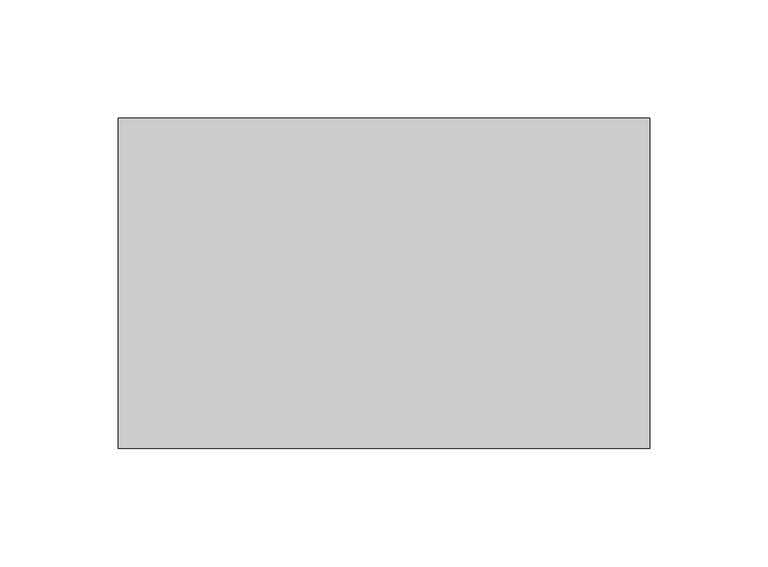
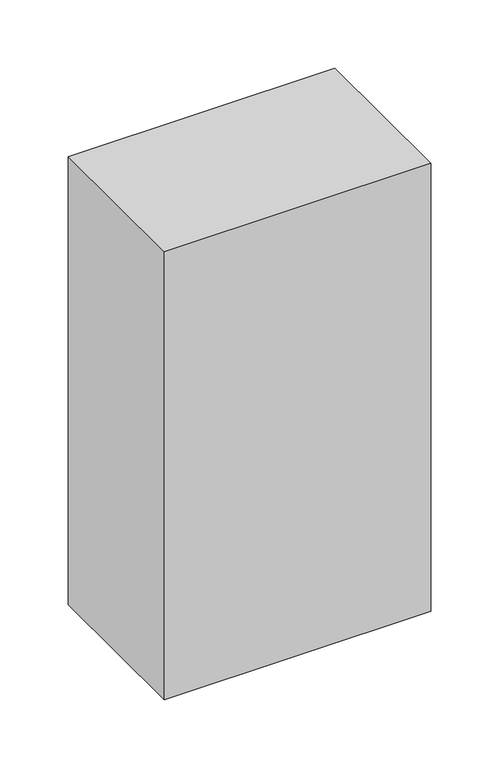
"""IFC4 building model written with IfcOpenShell, lengths in millimetres: proxy geometry."""

from ifc_helpers import new_model, si_unit, frame, origin, place, context, project, spatial, polyline, outline, extrude, source, transform, mapped, element, save


def structural_framing_92795b1a(model_context):
    return source(origin(), model_context, "Body", "SweptSolid", [
        extrude(outline(polyline([(-112.55, -70.0), (-112.55, 70.0), (112.55, 70.0), (112.55, -70.0), (-112.55, -70.0)])), frame((0.0, 0.0, -400.0), z_axis=(0.0, 0.0, 1.0), x_axis=(1.0, 0.0, 0.0)), (0.0, 0.0, 1.0), 400.0),
    ])


if __name__ == "__main__":
    model = new_model("IFC4")
    model_context = context("Model", 3, world=origin())
    ifc_project = project(units=[si_unit("LENGTHUNIT", "METRE", prefix="MILLI")], contexts=[model_context])
    site = spatial("IfcSite", under=ifc_project)
    building = spatial("IfcBuilding", under=site)
    placement = place(None, origin())
    structural_framing_shape = structural_framing_92795b1a(model_context)
    element("IfcBuildingElementProxy", 1, Name="Structural Framing", at=placement, inside=building, context=model_context, shape_type="MappedRepresentation", body=[
        mapped(structural_framing_shape, transform((0.0, 0.0, 0.0), x_axis=(1.0, 0.0, 0.0), y_axis=(0.0, 1.0, 0.0), z_axis=(0.0, 0.0, 1.0))),
    ])
    save(model, "model.ifc")
